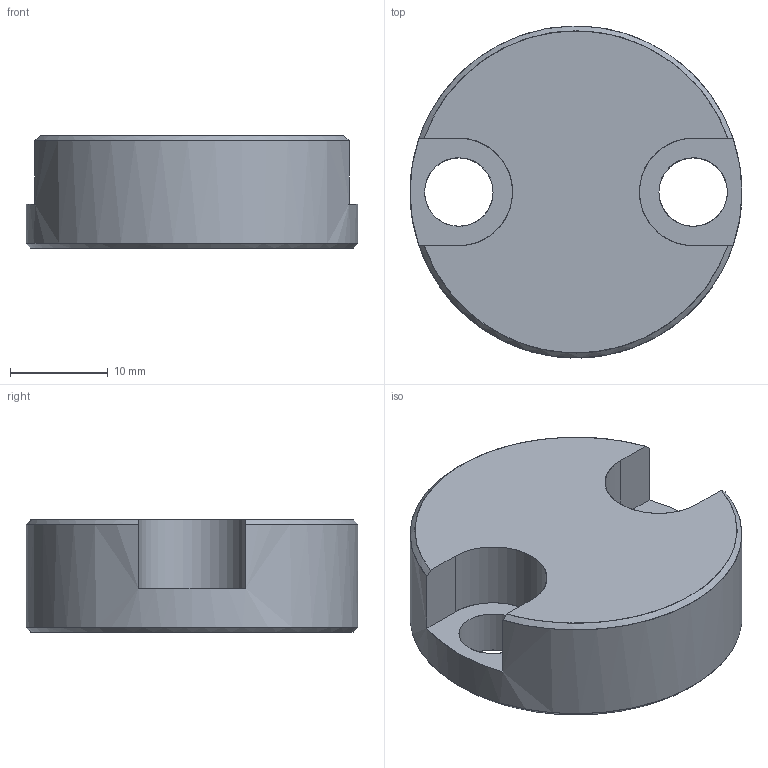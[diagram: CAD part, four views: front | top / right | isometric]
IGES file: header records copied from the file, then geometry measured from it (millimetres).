
Global section: file name: E:\UnigraphicsGraphicData\MISUMI_MOLD-PARTS\NX\3d_cphp34_02852_r00.igs; native system: NX V5.0; preprocessor: UGS NX IGES V5.0; author: MISUMI; date: 20101115.182528; units: millimetre
Bounding box: 34 x 33.99 x 11.5 mm (x, y, z)
Surface area: 3231.4 mm2 (no closed solid volume)
Topology: 0 solids, 0 shells, 16 faces, 146 edges, 143 vertices
Faces by surface type: bspline 16
